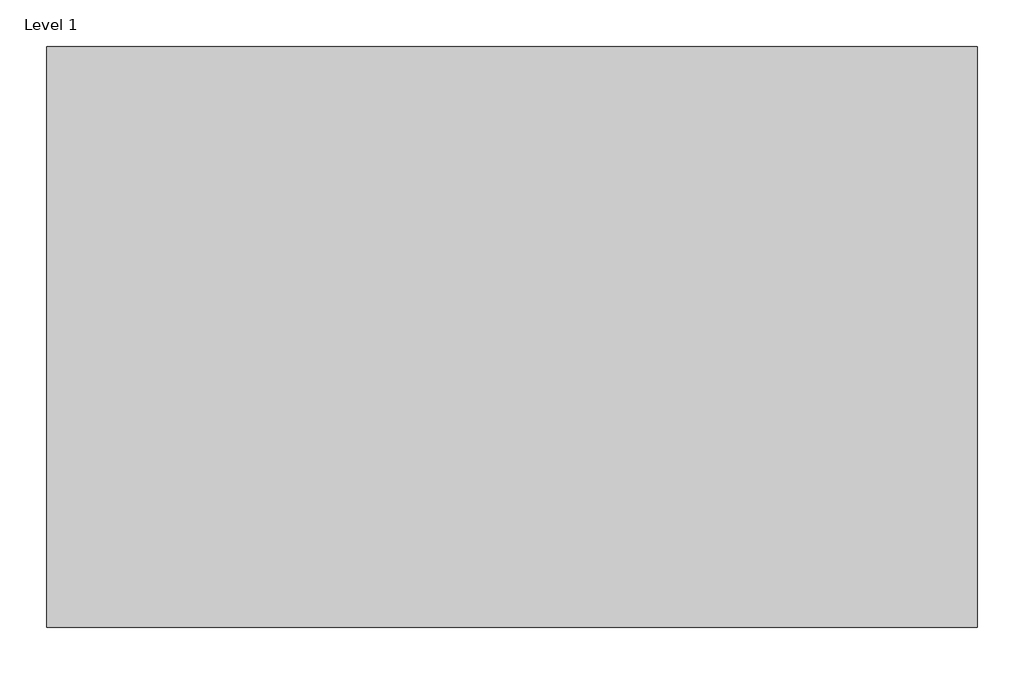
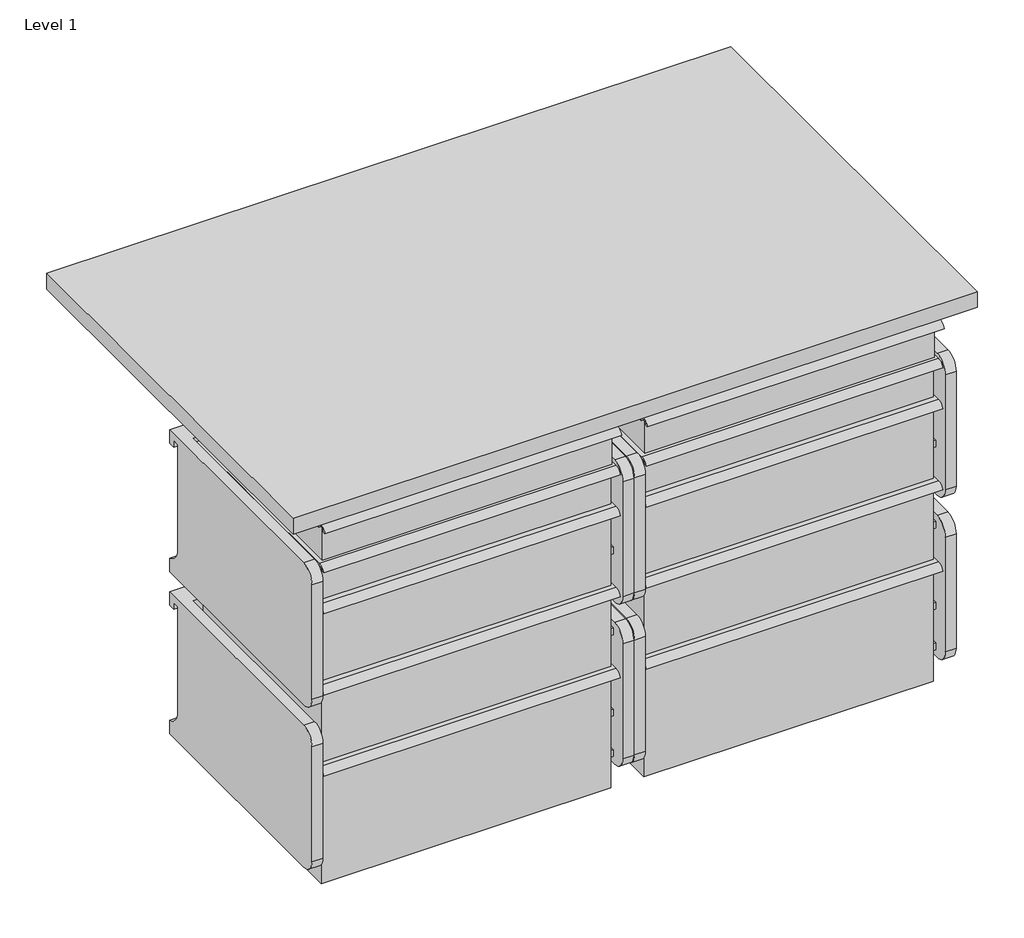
# One storey, incomplete: 15 furniture elements.
"""IFC4 building model written with IfcOpenShell, lengths in millimetres."""

from ifc_helpers import new_model, si_unit, origin, place, context, project, spatial, transform, mapped, element, save
from components import furniture_30ac351e, furniture_e68dc01e, a_3_21ecb1ea, a_3_71a075e6, b_6_e7e615e0, b_6_b4610c64, c_9_91e5ef83, lam_30d_48w_acbebbb6

model = new_model("IFC4")

# Units and contexts
model_context = context("Model", 3, world=origin())
ifc_project = project(units=[si_unit("LENGTHUNIT", "METRE", prefix="MILLI")], contexts=[model_context])

# Site, building, storey
site = spatial("IfcSite", under=ifc_project)
building = spatial("IfcBuilding", under=site)
storey = spatial("IfcBuildingStorey", under=building, Name="Level 1", Elevation=0.0)

# Furniture
placement = place(None, origin())
furniture_shape = furniture_30ac351e(model_context)
element("IfcFurniture", 1, ObjectType="HermanMiller_CoStruc_CO205_CFrame : 10H x 17D x 22W", at=placement, inside=storey, context=model_context, shape_type="MappedRepresentation", body=[
    mapped(furniture_shape, transform((228.1172751, -397.9791797, 0.0), x_axis=(1.0, 0.0, 0.0), y_axis=(0.0, 1.0, 0.0), z_axis=(0.0, 0.0, 1.0))),
])
element("IfcFurniture", 2, ObjectType="HermanMiller_CoStruc_CO205_CFrame : 10H x 17D x 22W", at=placement, inside=storey, context=model_context, shape_type="MappedRepresentation", body=[
    mapped(furniture_shape, transform((801.2047751, -397.9791797, 0.0), x_axis=(1.0, 0.0, 0.0), y_axis=(0.0, 1.0, 0.0), z_axis=(0.0, 0.0, 1.0))),
])
furniture_2_shape = furniture_e68dc01e(model_context)
element("IfcFurniture", 3, ObjectType="HermanMiller_CoStruc_CO205_CFrame : 10H x 17D x 22W", at=placement, inside=storey, context=model_context, shape_type="MappedRepresentation", body=[
    mapped(furniture_2_shape, transform((801.2047751, -397.9791797, 0.0), x_axis=(1.0, 0.0, 0.0), y_axis=(0.0, 1.0, 0.0), z_axis=(0.0, 0.0, 1.0))),
])
element("IfcFurniture", 4, ObjectType="HermanMiller_CoStruc_CO205_CFrame : 10H x 17D x 22W", at=placement, inside=storey, context=model_context, shape_type="MappedRepresentation", body=[
    mapped(furniture_2_shape, transform((228.1172751, -397.9791797, 0.0), x_axis=(1.0, 0.0, 0.0), y_axis=(0.0, 1.0, 0.0), z_axis=(0.0, 0.0, 1.0))),
])
a_3_shape = a_3_21ecb1ea(model_context)
element("IfcFurniture", 5, ObjectType="HermanMiller_CoStruc_CO207_Drawer : A - 3", at=placement, inside=storey, context=model_context, shape_type="MappedRepresentation", body=[
    mapped(a_3_shape, transform((322.9876317, -557.36744, 0.0), x_axis=(1.0, 0.0, 0.0), y_axis=(0.0, 1.0, 0.0), z_axis=(0.0, 0.0, 1.0))),
])
element("IfcFurniture", 6, ObjectType="HermanMiller_CoStruc_CO207_Drawer : A - 3", at=placement, inside=storey, context=model_context, shape_type="MappedRepresentation", body=[
    mapped(a_3_shape, transform((896.0751317, -557.36744, 0.0), x_axis=(1.0, 0.0, 0.0), y_axis=(0.0, 1.0, 0.0), z_axis=(0.0, 0.0, 1.0))),
])
a_3_2_shape = a_3_71a075e6(model_context)
element("IfcFurniture", 7, ObjectType="HermanMiller_CoStruc_CO207_Drawer : A - 3", at=placement, inside=storey, context=model_context, shape_type="MappedRepresentation", body=[
    mapped(a_3_2_shape, transform((322.9876317, -561.33746, 0.0), x_axis=(1.0, 0.0, 0.0), y_axis=(0.0, 1.0, 0.0), z_axis=(0.0, 0.0, 1.0))),
])
element("IfcFurniture", 8, ObjectType="HermanMiller_CoStruc_CO207_Drawer : A - 3", at=placement, inside=storey, context=model_context, shape_type="MappedRepresentation", body=[
    mapped(a_3_2_shape, transform((896.0751317, -561.33746, 0.0), x_axis=(1.0, 0.0, 0.0), y_axis=(0.0, 1.0, 0.0), z_axis=(0.0, 0.0, 1.0))),
])
b_6_shape = b_6_e7e615e0(model_context)
element("IfcFurniture", 9, ObjectType="HermanMiller_CoStruc_CO207_Drawer : B - 6", at=placement, inside=storey, context=model_context, shape_type="MappedRepresentation", body=[
    mapped(b_6_shape, transform((322.9876317, -557.36744, 0.0), x_axis=(1.0, 0.0, 0.0), y_axis=(0.0, 1.0, 0.0), z_axis=(0.0, 0.0, 1.0))),
])
element("IfcFurniture", 10, ObjectType="HermanMiller_CoStruc_CO207_Drawer : B - 6", at=placement, inside=storey, context=model_context, shape_type="MappedRepresentation", body=[
    mapped(b_6_shape, transform((896.0751317, -557.36744, 0.0), x_axis=(1.0, 0.0, 0.0), y_axis=(0.0, 1.0, 0.0), z_axis=(0.0, 0.0, 1.0))),
])
b_6_2_shape = b_6_b4610c64(model_context)
element("IfcFurniture", 11, ObjectType="HermanMiller_CoStruc_CO207_Drawer : B - 6", at=placement, inside=storey, context=model_context, shape_type="MappedRepresentation", body=[
    mapped(b_6_2_shape, transform((322.9876317, -557.36744, 0.0), x_axis=(1.0, 0.0, 0.0), y_axis=(0.0, 1.0, 0.0), z_axis=(0.0, 0.0, 1.0))),
])
element("IfcFurniture", 12, ObjectType="HermanMiller_CoStruc_CO207_Drawer : B - 6", at=placement, inside=storey, context=model_context, shape_type="MappedRepresentation", body=[
    mapped(b_6_2_shape, transform((896.0751317, -557.36744, 0.0), x_axis=(1.0, 0.0, 0.0), y_axis=(0.0, 1.0, 0.0), z_axis=(0.0, 0.0, 1.0))),
])
c_9_shape = c_9_91e5ef83(model_context)
element("IfcFurniture", 13, ObjectType="HermanMiller_CoStruc_CO207_Drawer : C - 9", at=placement, inside=storey, context=model_context, shape_type="MappedRepresentation", body=[
    mapped(c_9_shape, transform((322.9876317, -557.36744, 0.0), x_axis=(1.0, 0.0, 0.0), y_axis=(0.0, 1.0, 0.0), z_axis=(0.0, 0.0, 1.0))),
])
element("IfcFurniture", 14, ObjectType="HermanMiller_CoStruc_CO207_Drawer : C - 9", at=placement, inside=storey, context=model_context, shape_type="MappedRepresentation", body=[
    mapped(c_9_shape, transform((896.0751317, -557.36744, 0.0), x_axis=(1.0, 0.0, 0.0), y_axis=(0.0, 1.0, 0.0), z_axis=(0.0, 0.0, 1.0))),
])
lam_30d_48w_shape = lam_30d_48w_acbebbb6(model_context)
element("IfcFurniture", 15, ObjectType="HermanMiller_CoStruc_C4700_RectangularWorkTableSurface : Lam 30D 48W", at=placement, inside=storey, context=model_context, shape_type="MappedRepresentation", body=[
    mapped(lam_30d_48w_shape, transform((-1.5875, 3.04546, 0.0), x_axis=(1.0, 0.0, 0.0), y_axis=(0.0, 1.0, 0.0), z_axis=(0.0, 0.0, 1.0))),
])

save(model, "model.ifc")
